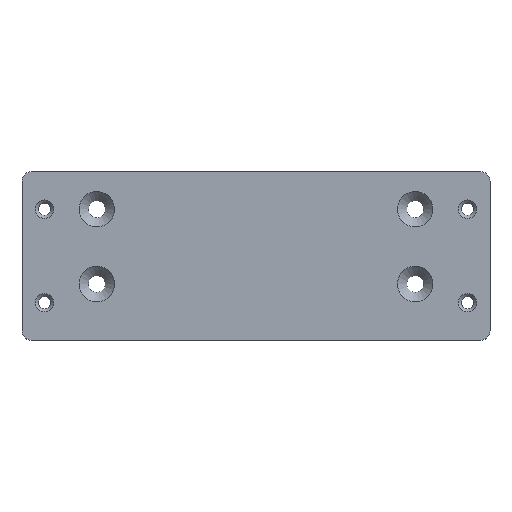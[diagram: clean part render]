
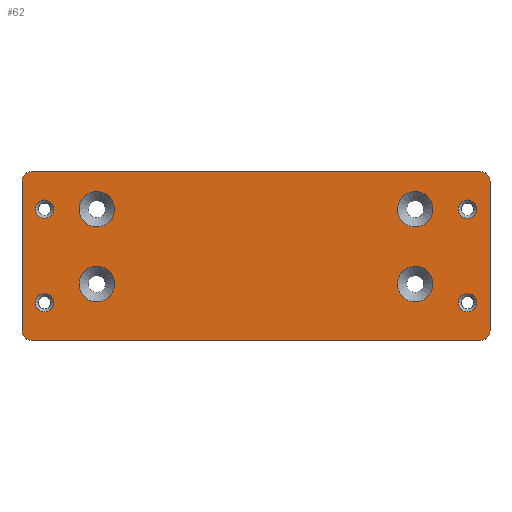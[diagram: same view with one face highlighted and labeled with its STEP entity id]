
A CAD part, top view. The second image highlights one B-rep face of the part: STEP entity #62.
In plain terms, the highlighted planar face has unit normal (0, 0, 1).
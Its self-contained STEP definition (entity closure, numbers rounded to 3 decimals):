
#62=ADVANCED_FACE('',(#310,#312,#314,#316,#318,#320,#322,#324,#326),#328,.T.);
#310=FACE_BOUND('',#311,.T.);
#311=EDGE_LOOP('',(#549,#550,#551,#552,#553,#554,#555,#556));
#312=FACE_BOUND('',#313,.T.);
#313=EDGE_LOOP('',(#557));
#314=FACE_BOUND('',#315,.T.);
#315=EDGE_LOOP('',(#558));
#316=FACE_BOUND('',#317,.T.);
#317=EDGE_LOOP('',(#559));
#318=FACE_BOUND('',#319,.T.);
#319=EDGE_LOOP('',(#560));
#320=FACE_BOUND('',#321,.T.);
#321=EDGE_LOOP('',(#561));
#322=FACE_BOUND('',#323,.T.);
#323=EDGE_LOOP('',(#562));
#324=FACE_BOUND('',#325,.T.);
#325=EDGE_LOOP('',(#563));
#326=FACE_BOUND('',#327,.T.);
#327=EDGE_LOOP('',(#564));
#328=PLANE('',#329);
#329=AXIS2_PLACEMENT_3D('',#330,#331,#332);
#330=CARTESIAN_POINT('',(0.,0.,15.));
#331=DIRECTION('',(0.,0.,1.));
#332=DIRECTION('',(-1.,0.,0.));
#549=ORIENTED_EDGE('',*,*,#645,.T.);
#550=ORIENTED_EDGE('',*,*,#646,.T.);
#551=ORIENTED_EDGE('',*,*,#647,.T.);
#552=ORIENTED_EDGE('',*,*,#648,.T.);
#553=ORIENTED_EDGE('',*,*,#649,.T.);
#554=ORIENTED_EDGE('',*,*,#650,.T.);
#555=ORIENTED_EDGE('',*,*,#651,.T.);
#556=ORIENTED_EDGE('',*,*,#652,.T.);
#557=ORIENTED_EDGE('',*,*,#653,.T.);
#558=ORIENTED_EDGE('',*,*,#654,.T.);
#559=ORIENTED_EDGE('',*,*,#655,.T.);
#560=ORIENTED_EDGE('',*,*,#656,.T.);
#561=ORIENTED_EDGE('',*,*,#657,.T.);
#562=ORIENTED_EDGE('',*,*,#658,.T.);
#563=ORIENTED_EDGE('',*,*,#659,.T.);
#564=ORIENTED_EDGE('',*,*,#660,.T.);
#645=EDGE_CURVE('',#709,#710,#711,.T.);
#646=EDGE_CURVE('',#710,#712,#713,.T.);
#647=EDGE_CURVE('',#712,#714,#715,.T.);
#648=EDGE_CURVE('',#714,#716,#717,.T.);
#649=EDGE_CURVE('',#716,#718,#719,.T.);
#650=EDGE_CURVE('',#718,#720,#721,.T.);
#651=EDGE_CURVE('',#720,#722,#723,.T.);
#652=EDGE_CURVE('',#722,#709,#724,.T.);
#653=EDGE_CURVE('',#725,#725,#726,.F.);
#654=EDGE_CURVE('',#727,#727,#728,.F.);
#655=EDGE_CURVE('',#729,#729,#730,.F.);
#656=EDGE_CURVE('',#731,#731,#732,.F.);
#657=EDGE_CURVE('',#733,#733,#734,.F.);
#658=EDGE_CURVE('',#735,#735,#736,.F.);
#659=EDGE_CURVE('',#737,#737,#738,.F.);
#660=EDGE_CURVE('',#739,#739,#740,.F.);
#709=VERTEX_POINT('',#841);
#710=VERTEX_POINT('',#842);
#711=CIRCLE('',#843,5.);
#712=VERTEX_POINT('',#847);
#713=LINE('',#848,#849);
#714=VERTEX_POINT('',#851);
#715=CIRCLE('',#852,5.);
#716=VERTEX_POINT('',#856);
#717=LINE('',#857,#858);
#718=VERTEX_POINT('',#860);
#719=CIRCLE('',#861,5.);
#720=VERTEX_POINT('',#865);
#721=LINE('',#866,#867);
#722=VERTEX_POINT('',#869);
#723=CIRCLE('',#870,5.);
#724=LINE('',#874,#875);
#725=VERTEX_POINT('',#877);
#726=CIRCLE('',#878,4.923);
#727=VERTEX_POINT('',#882);
#728=CIRCLE('',#883,4.923);
#729=VERTEX_POINT('',#887);
#730=CIRCLE('',#888,9.5);
#731=VERTEX_POINT('',#892);
#732=CIRCLE('',#893,9.5);
#733=VERTEX_POINT('',#897);
#734=CIRCLE('',#898,9.5);
#735=VERTEX_POINT('',#902);
#736=CIRCLE('',#903,9.5);
#737=VERTEX_POINT('',#907);
#738=CIRCLE('',#908,4.923);
#739=VERTEX_POINT('',#912);
#740=CIRCLE('',#913,4.923);
#841=CARTESIAN_POINT('',(-125.,-40.,15.));
#842=CARTESIAN_POINT('',(-120.,-45.,15.));
#843=AXIS2_PLACEMENT_3D('',#844,#845,#846);
#844=CARTESIAN_POINT('',(-120.,-40.,15.));
#845=DIRECTION('',(0.,0.,1.));
#846=DIRECTION('',(-1.,0.,0.));
#847=CARTESIAN_POINT('',(120.,-45.,15.));
#848=CARTESIAN_POINT('',(-120.,-45.,15.));
#849=VECTOR('',#850,1.);
#850=DIRECTION('',(1.,0.,0.));
#851=CARTESIAN_POINT('',(125.,-40.,15.));
#852=AXIS2_PLACEMENT_3D('',#853,#854,#855);
#853=CARTESIAN_POINT('',(120.,-40.,15.));
#854=DIRECTION('',(0.,0.,1.));
#855=DIRECTION('',(0.,-1.,0.));
#856=CARTESIAN_POINT('',(125.,40.,15.));
#857=CARTESIAN_POINT('',(125.,-40.,15.));
#858=VECTOR('',#859,1.);
#859=DIRECTION('',(0.,1.,0.));
#860=CARTESIAN_POINT('',(120.,45.,15.));
#861=AXIS2_PLACEMENT_3D('',#862,#863,#864);
#862=CARTESIAN_POINT('',(120.,40.,15.));
#863=DIRECTION('',(0.,0.,1.));
#864=DIRECTION('',(1.,0.,0.));
#865=CARTESIAN_POINT('',(-120.,45.,15.));
#866=CARTESIAN_POINT('',(120.,45.,15.));
#867=VECTOR('',#868,1.);
#868=DIRECTION('',(-1.,0.,0.));
#869=CARTESIAN_POINT('',(-125.,40.,15.));
#870=AXIS2_PLACEMENT_3D('',#871,#872,#873);
#871=CARTESIAN_POINT('',(-120.,40.,15.));
#872=DIRECTION('',(0.,0.,1.));
#873=DIRECTION('',(0.,1.,0.));
#874=CARTESIAN_POINT('',(-125.,40.,15.));
#875=VECTOR('',#876,1.);
#876=DIRECTION('',(0.,-1.,0.));
#877=CARTESIAN_POINT('',(-117.923,25.,15.));
#878=AXIS2_PLACEMENT_3D('',#879,#880,#881);
#879=CARTESIAN_POINT('',(-113.,25.,15.));
#880=DIRECTION('',(0.,0.,1.));
#881=DIRECTION('',(-1.,0.,0.));
#882=CARTESIAN_POINT('',(108.077,-25.,15.));
#883=AXIS2_PLACEMENT_3D('',#884,#885,#886);
#884=CARTESIAN_POINT('',(113.,-25.,15.));
#885=DIRECTION('',(0.,0.,1.));
#886=DIRECTION('',(-1.,0.,0.));
#887=CARTESIAN_POINT('',(75.5,25.,15.));
#888=AXIS2_PLACEMENT_3D('',#889,#890,#891);
#889=CARTESIAN_POINT('',(85.,25.,15.));
#890=DIRECTION('',(0.,0.,1.));
#891=DIRECTION('',(-1.,0.,0.));
#892=CARTESIAN_POINT('',(-94.5,25.,15.));
#893=AXIS2_PLACEMENT_3D('',#894,#895,#896);
#894=CARTESIAN_POINT('',(-85.,25.,15.));
#895=DIRECTION('',(0.,0.,1.));
#896=DIRECTION('',(-1.,0.,0.));
#897=CARTESIAN_POINT('',(-94.5,-15.,15.));
#898=AXIS2_PLACEMENT_3D('',#899,#900,#901);
#899=CARTESIAN_POINT('',(-85.,-15.,15.));
#900=DIRECTION('',(0.,0.,1.));
#901=DIRECTION('',(-1.,0.,0.));
#902=CARTESIAN_POINT('',(75.5,-15.,15.));
#903=AXIS2_PLACEMENT_3D('',#904,#905,#906);
#904=CARTESIAN_POINT('',(85.,-15.,15.));
#905=DIRECTION('',(0.,0.,1.));
#906=DIRECTION('',(-1.,0.,0.));
#907=CARTESIAN_POINT('',(-117.923,-25.,15.));
#908=AXIS2_PLACEMENT_3D('',#909,#910,#911);
#909=CARTESIAN_POINT('',(-113.,-25.,15.));
#910=DIRECTION('',(0.,0.,1.));
#911=DIRECTION('',(-1.,0.,0.));
#912=CARTESIAN_POINT('',(108.077,25.,15.));
#913=AXIS2_PLACEMENT_3D('',#914,#915,#916);
#914=CARTESIAN_POINT('',(113.,25.,15.));
#915=DIRECTION('',(0.,0.,1.));
#916=DIRECTION('',(-1.,0.,0.));
